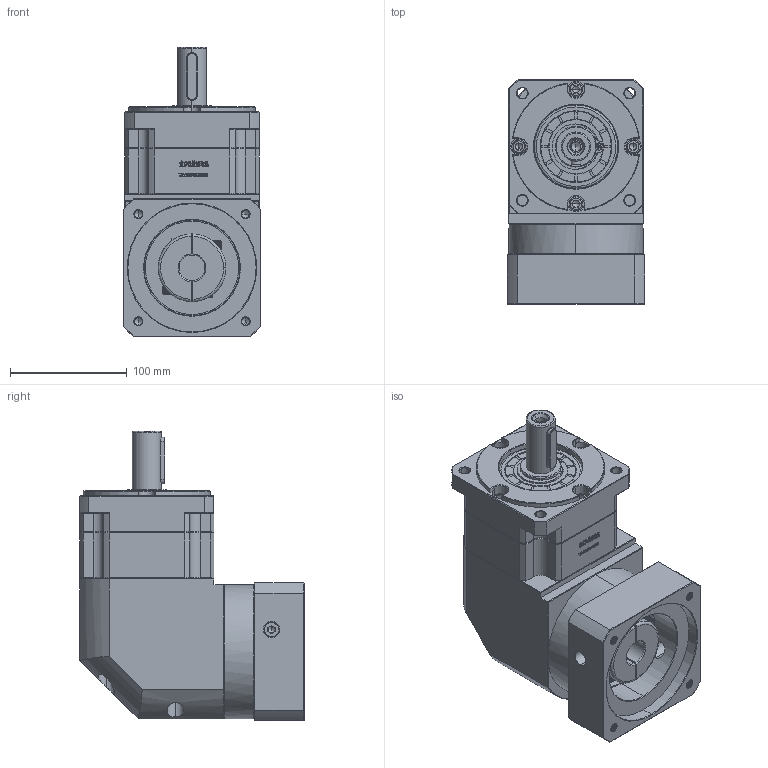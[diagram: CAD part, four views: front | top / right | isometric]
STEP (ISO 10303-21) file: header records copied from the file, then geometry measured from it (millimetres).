
FILE_DESCRIPTION (( 'STEP AP214' ), '1' );
FILE_NAME ('ZBR115A-D25-L1-22-110-130-M8.step', '2023-03-03T04:55:00', ( '' ), ( 'Microsoft' ), 'SwSTEP 2.0', 'SolidWorks 2016', '' );
FILE_SCHEMA (( 'AUTOMOTIVE_DESIGN' ));
Length unit declared in the file: millimetre
Products named in the file (1): ZBR115A-D25-L1-22-110-130-M8
Bounding box: 118 x 192.4 x 248 mm (x, y, z)
Volume: 2935173.1 mm3; surface area: 247008.3 mm2
Topology: 6 solids, 6 shells, 2982 faces, 7903 edges, 5067 vertices
Faces by surface type: plane 1559, bspline 607, cylinder 439, cone 369, torus 8
Entity records: 161671 total; most frequent: CARTESIAN_POINT 59783, ORIENTED_EDGE 15746, DIRECTION 11916, EDGE_CURVE 7873, VECTOR 5306, LINE 5306, VERTEX_POINT 5067, AXIS2_PLACEMENT_3D 3305
